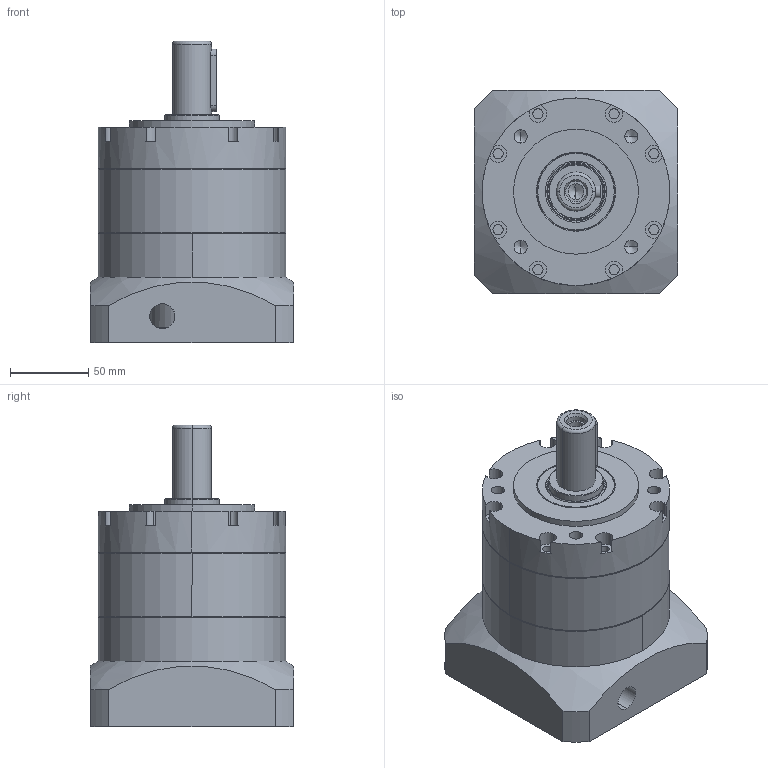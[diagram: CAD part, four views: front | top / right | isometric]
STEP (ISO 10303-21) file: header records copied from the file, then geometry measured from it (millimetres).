
FILE_DESCRIPTION (( 'STEP AP203' ), '1' );
FILE_NAME ('TPG120-L1-22-110-145.STEP', '2024-07-03T06:03:12', ( 'Windows User' ), ( 'P R C' ), 'SwSTEP 2.0', 'SolidWorks 2016', '' );
FILE_SCHEMA (( 'CONFIG_CONTROL_DESIGN' ));
Length unit declared in the file: millimetre
Products named in the file (9): TPG120-奻裔啣; TPG120-内齿圈; TPG120-帣釱; TPG120-薊粣ん_LZ03; TC35-50-8_TC-34.9-55-7; 内六角圆柱头螺钉M8×25; TPG120-L1-22-110-145; 深沟球轴承 ZC6009ZZ; 邧埴瑩 8x7x40
Assembly tree (8 placements, depth 2):
  TPG120-L1-22-110-145
    TPG120-奻裔啣
    TPG120-内齿圈
    TPG120-帣釱
    TPG120-薊粣ん_LZ03
    TC35-50-8_TC-34.9-55-7
    内六角圆柱头螺钉M8×25
    深沟球轴承 ZC6009ZZ
    邧埴瑩 8x7x40
Bounding box: 130 x 130 x 193 mm (x, y, z)
Volume: 1489525 mm3; surface area: 225198.7 mm2
Topology: 8 solids, 8 shells, 482 faces, 1332 edges, 850 vertices
Faces by surface type: cylinder 160, plane 110, sphere 84, cone 64, torus 64
Entity records: 21003 total; most frequent: CARTESIAN_POINT 7945, DIRECTION 2614, ORIENTED_EDGE 2550, EDGE_CURVE 1275, AXIS2_PLACEMENT_3D 1155, VERTEX_POINT 824, CIRCLE 662, EDGE_LOOP 573
